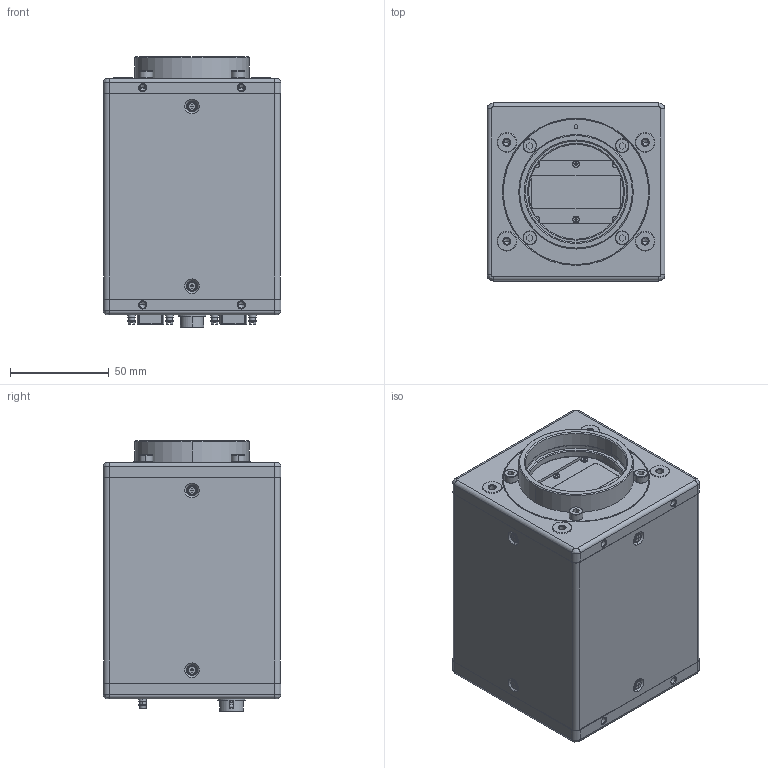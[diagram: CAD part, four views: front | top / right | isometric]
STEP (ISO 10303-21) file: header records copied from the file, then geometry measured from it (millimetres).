
FILE_DESCRIPTION((''),'2;1');
FILE_NAME('SW-4010Q-MCL-M52_MOCK','2023-02-20T11:03:00',('aso'),(''),'CREO PARAMETRIC BY PTC INC, 2019352','CREO PARAMETRIC BY PTC INC, 2019352','');
FILE_SCHEMA(('AUTOMOTIVE_DESIGN { 1 0 10303 214 1 1 1 1 }'));
Products named in the file (1): SW-4010Q-MCL-M52_MOCK
Bounding box: 90 x 90 x 137 mm (x, y, z)
Volume: 957899.4 mm3; surface area: 69232.9 mm2
Topology: 2 solids, 16 shells, 2006 faces, 5697 edges, 3677 vertices
Faces by surface type: plane 1201, cylinder 566, cone 147, torus 44, bspline 24, sphere 24
Entity records: 81145 total; most frequent: CARTESIAN_POINT 13697, ORIENTED_EDGE 11224, DIRECTION 10783, EDGE_CURVE 5637, VECTOR 3697, LINE 3697, VERTEX_POINT 3677, AXIS2_PLACEMENT_3D 3543
